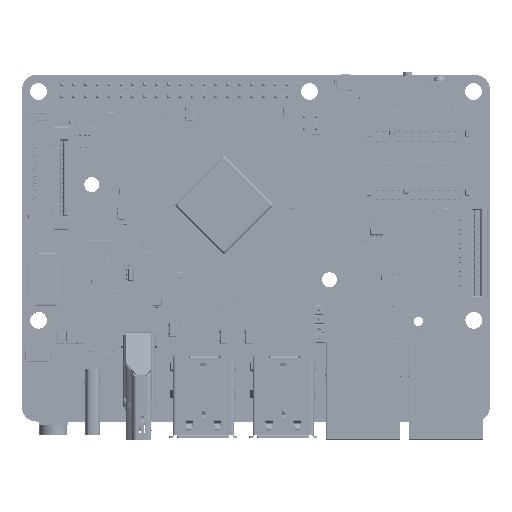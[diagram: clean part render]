
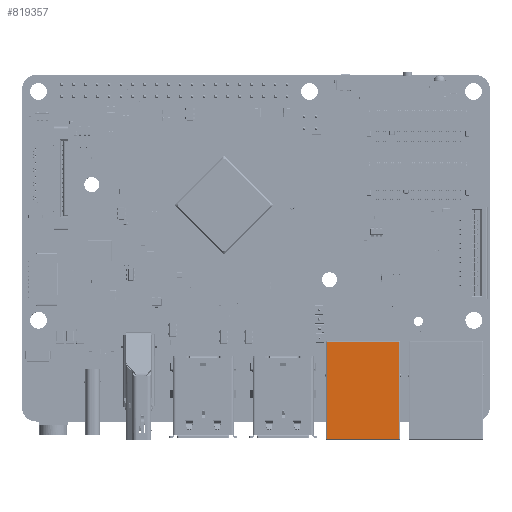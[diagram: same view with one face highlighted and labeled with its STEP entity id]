
A CAD part, top view. The second image highlights one B-rep face of the part: STEP entity #819357.
In plain terms, the highlighted planar face has unit normal (0, 0, 1).
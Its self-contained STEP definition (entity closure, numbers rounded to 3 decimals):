
#814463=DIRECTION('',(-1.,0.,0.));
#814464=VECTOR('',#814463,15.47);
#814465=CARTESIAN_POINT('',(80.77,17.07,15.35));
#814466=LINE('',#814465,#814464);
#814471=DIRECTION('',(0.,1.,0.));
#814472=VECTOR('',#814471,20.79);
#814473=CARTESIAN_POINT('',(80.77,-3.72,15.35));
#814474=LINE('',#814473,#814472);
#815039=DIRECTION('',(0.,-1.,0.));
#815040=VECTOR('',#815039,20.79);
#815041=CARTESIAN_POINT('',(65.3,17.07,15.35));
#815042=LINE('',#815041,#815040);
#815118=DIRECTION('',(1.,0.,0.));
#815119=VECTOR('',#815118,15.47);
#815120=CARTESIAN_POINT('',(65.3,-3.72,15.35));
#815121=LINE('',#815120,#815119);
#818217=CARTESIAN_POINT('',(80.77,17.07,15.35));
#818218=CARTESIAN_POINT('',(65.3,17.07,15.35));
#818219=VERTEX_POINT('',#818217);
#818220=VERTEX_POINT('',#818218);
#818225=CARTESIAN_POINT('',(80.77,-3.72,15.35));
#818226=VERTEX_POINT('',#818225);
#818227=CARTESIAN_POINT('',(65.3,-3.72,15.35));
#818228=VERTEX_POINT('',#818227);
#819343=CARTESIAN_POINT('',(81.,17.3,15.35));
#819344=DIRECTION('',(0.,0.,1.));
#819345=DIRECTION('',(-1.,0.,0.));
#819346=AXIS2_PLACEMENT_3D('',#819343,#819344,#819345);
#819347=PLANE('',#819346);
#819349=ORIENTED_EDGE('',*,*,#819348,.F.);
#819351=ORIENTED_EDGE('',*,*,#819350,.F.);
#819353=ORIENTED_EDGE('',*,*,#819352,.F.);
#819354=ORIENTED_EDGE('',*,*,#819332,.F.);
#819355=EDGE_LOOP('',(#819349,#819351,#819353,#819354));
#819356=FACE_OUTER_BOUND('',#819355,.F.);
#819357=ADVANCED_FACE('',(#819356),#819347,.T.);
#819332=EDGE_CURVE('',#818219,#818220,#814466,.T.);
#819348=EDGE_CURVE('',#818226,#818219,#814474,.T.);
#819350=EDGE_CURVE('',#818228,#818226,#815121,.T.);
#819352=EDGE_CURVE('',#818220,#818228,#815042,.T.);
